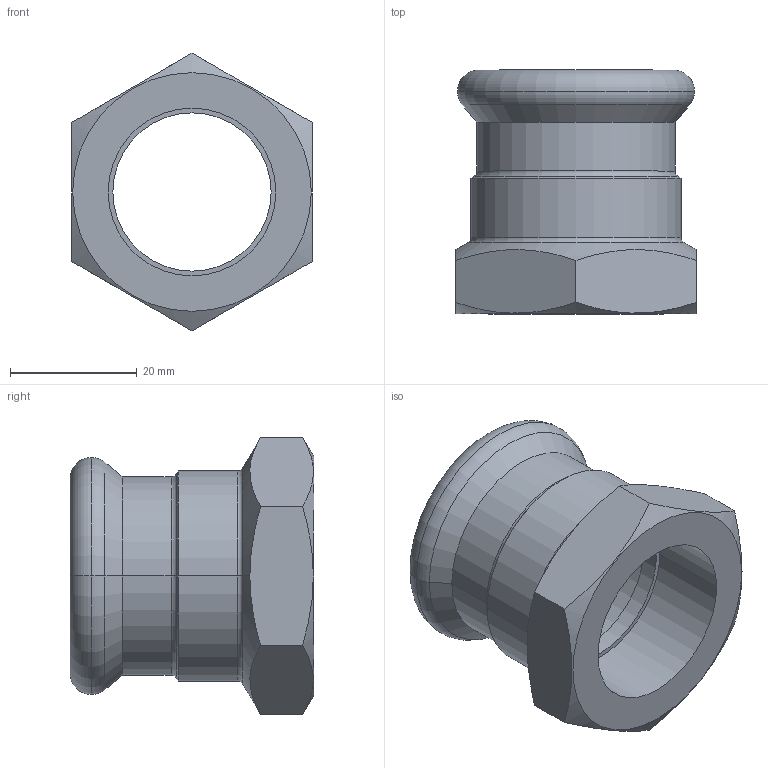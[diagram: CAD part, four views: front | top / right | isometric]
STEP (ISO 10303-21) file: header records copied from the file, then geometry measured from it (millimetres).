
FILE_DESCRIPTION(('CoCreate Modeling STEP Export'),'2;1');
FILE_NAME('C1402 28xRp3-4.stp','2014-11-07T13:25:36',(''),(''),'CoCreate Modeling STEP processor for AP214 (Solid Model)','CoCreate Modeling 17.00A 17-Jun-2010 (C) Parametric Technology GmbH','');
FILE_SCHEMA(('AUTOMOTIVE_DESIGN { 1 0 10303 214 1 1 1 1 }'));
Length unit declared in the file: millimetre
Products named in the file (2): C1402_28xRp¾
Assembly tree (1 placements, depth 2):
  C1402_28xRp¾
    C1402_28xRp¾
Bounding box: 38 x 38.5 x 43.88 mm (x, y, z)
Volume: 14629.1 mm3; surface area: 9270.3 mm2
Topology: 1 solids, 2 shells, 44 faces, 96 edges, 58 vertices
Faces by surface type: cylinder 14, plane 12, cone 10, torus 8
Entity records: 1957 total; most frequent: CARTESIAN_POINT 1068, ORIENTED_EDGE 192, DIRECTION 146, EDGE_CURVE 96, AXIS2_PLACEMENT_3D 58, VERTEX_POINT 58, EDGE_LOOP 50, FACE_OUTER_BOUND 44
